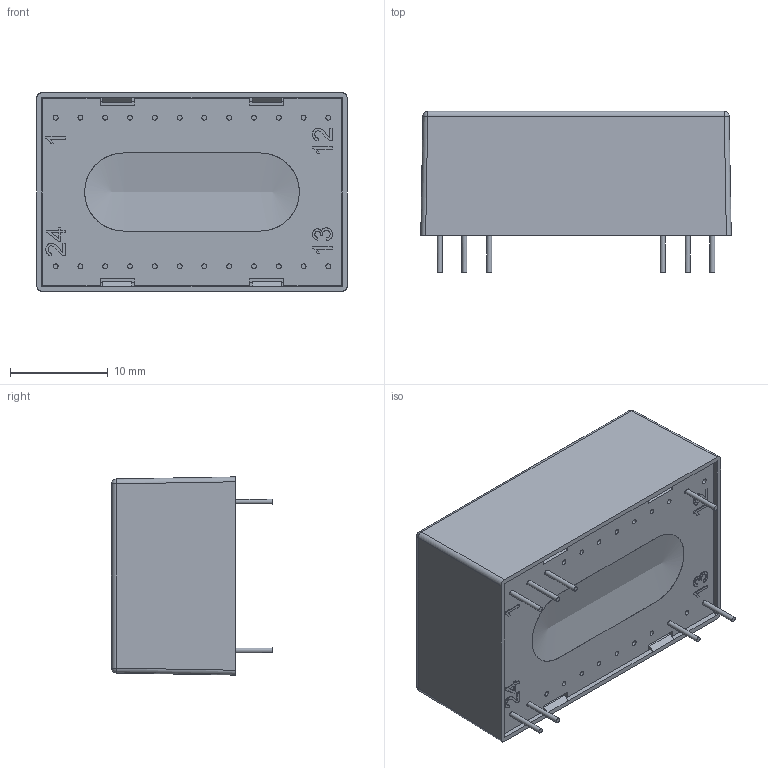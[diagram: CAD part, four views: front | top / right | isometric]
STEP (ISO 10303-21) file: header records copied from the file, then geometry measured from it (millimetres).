
FILE_DESCRIPTION (( 'STEP AP203' ), '1' );
FILE_NAME ('EC7AW18-72D12 2022.10.27.STEP', '2022-10-27T02:12:22', ( '' ), ( '' ), 'SwSTEP 2.0', 'SolidWorks 2020', '' );
FILE_SCHEMA (( 'CONFIG_CONTROL_DESIGN' ));
Length unit declared in the file: millimetre
Products named in the file (13): A CASE PIN d0.5x17mm 2021.06.04; CASE A1 H12.7mm(有卡勾)(M-C1035-00-M)G5114210028; EC7AW18 Glue 2022.10.27; 3A 4A BASE(有卡勾)-1040901; EC7AW18-72 Dual BASE+PIN(有卡勾)(8PIN)G521G8C0325(M-C1505-M)V1.0; EC7AW18-72D12 2022.10.27
Assembly tree (12 placements, depth 3):
  EC7AW18-72D12 2022.10.27
    EC7AW18-72 Dual BASE+PIN(有卡勾)(8PIN)G521G8C0325(M-C1505-M)V1.0
      3A 4A BASE(有卡勾)-1040901
      A CASE PIN d0.5x17mm 2021.06.04
      A CASE PIN d0.5x17mm 2021.06.04
      A CASE PIN d0.5x17mm 2021.06.04
      A CASE PIN d0.5x17mm 2021.06.04
      A CASE PIN d0.5x17mm 2021.06.04
      A CASE PIN d0.5x17mm 2021.06.04
      A CASE PIN d0.5x17mm 2021.06.04
      A CASE PIN d0.5x17mm 2021.06.04
    CASE A1 H12.7mm(有卡勾)(M-C1035-00-M)G5114210028
    EC7AW18 Glue 2022.10.27
Bounding box: 31.8 x 16.5 x 20.3 mm (x, y, z)
Volume: 8318.2 mm3; surface area: 7330.8 mm2
Topology: 11 solids, 11 shells, 842 faces, 2183 edges, 1385 vertices
Faces by surface type: plane 505, cylinder 244, bspline 89, sphere 4
Full cylindrical faces by diameter (mm): 0.5 x56, 1.2 x14
Entity records: 32162 total; most frequent: CARTESIAN_POINT 10910, ORIENTED_EDGE 4124, DIRECTION 4016, EDGE_CURVE 2062, AXIS2_PLACEMENT_3D 1401, VERTEX_POINT 1338, VECTOR 1214, LINE 1214
